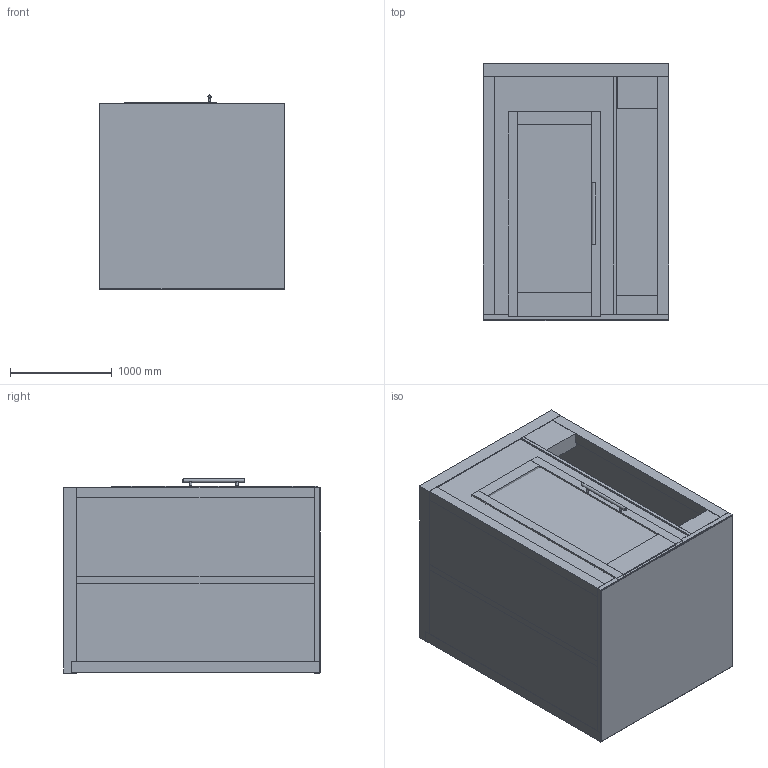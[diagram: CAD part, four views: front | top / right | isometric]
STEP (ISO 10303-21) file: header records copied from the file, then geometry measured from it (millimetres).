
FILE_DESCRIPTION(/* description */ (''),/* implementation_level */ '2;1');
FILE_NAME(/* name */ 'C:\Users\CLy\Desktop\DESKTOP\FZA.stp',/* time_stamp */ '2021-03-11T09:56:17-08:00',/* author */ ('CLy'),/* organization */ (''),/* preprocessor_version */ 'ST-DEVELOPER v18',/* originating_system */ 'Autodesk Inventor 2020',/* authorisation */ '');
FILE_SCHEMA (('AUTOMOTIVE_DESIGN { 1 0 10303 214 3 1 1 }'));
Length unit declared in the file: inch
Products named in the file (1): FZA (W)
Bounding box: 1830.37 x 2528.19 x 1910.09 mm (x, y, z)
Volume: 2352588225.5 mm3; surface area: 47651305.3 mm2
Topology: 6 solids, 6 shells, 160 faces, 440 edges, 296 vertices
Faces by surface type: plane 132, cylinder 12, torus 8, cone 4, bspline 4
Full cylindrical faces by diameter (mm): 6.35 x6, 25.4 x4, 31.75 x2
Entity records: 6061 total; most frequent: CARTESIAN_POINT 1731, ORIENTED_EDGE 872, DIRECTION 798, EDGE_CURVE 436, LINE 364, VECTOR 364, VERTEX_POINT 296, AXIS2_PLACEMENT_3D 217
